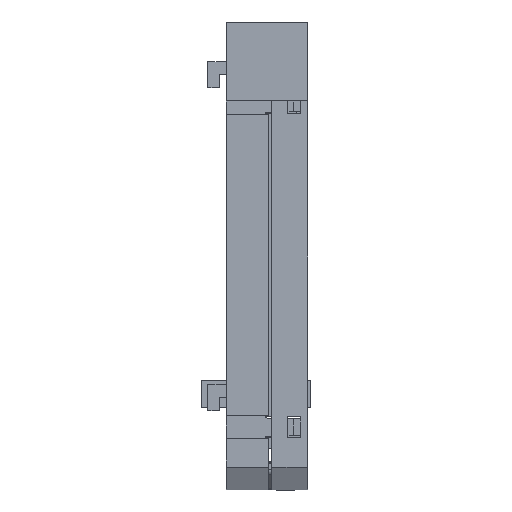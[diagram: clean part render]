
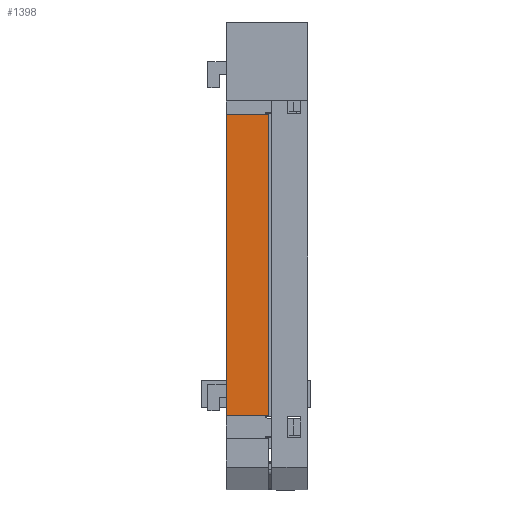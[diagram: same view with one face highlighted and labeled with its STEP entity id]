
A CAD part, front view. The second image highlights one B-rep face of the part: STEP entity #1398.
In plain terms, the highlighted planar face has unit normal (0, -1, 0).
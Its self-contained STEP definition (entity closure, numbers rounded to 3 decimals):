
#590 = EDGE_CURVE ( 'NONE', #17396, #34372, #19992, .T. ) ;
#1398 = ADVANCED_FACE ( 'NONE', ( #6600 ), #7859, .F. ) ;
#3129 = CARTESIAN_POINT ( 'NONE',  ( 6.5, 0., 0. ) ) ;
#3549 = ORIENTED_EDGE ( 'NONE', *, *, #8890, .F. ) ;
#6103 = CARTESIAN_POINT ( 'NONE',  ( 6.5, 0., -57.349 ) ) ;
#6600 = FACE_OUTER_BOUND ( 'NONE', #14095, .T. ) ;
#6853 = EDGE_CURVE ( 'NONE', #19922, #17396, #26809, .T. ) ;
#7859 = PLANE ( 'NONE',  #29561 ) ;
#8890 = EDGE_CURVE ( 'NONE', #19922, #31140, #25908, .T. ) ;
#9030 = EDGE_CURVE ( 'NONE', #31140, #34372, #14469, .T. ) ;
#9062 = CARTESIAN_POINT ( 'NONE',  ( 0., 0., -57.349 ) ) ;
#12620 = VECTOR ( 'NONE', #23668, 1000. ) ;
#14095 = EDGE_LOOP ( 'NONE', ( #26227, #19745, #19815, #3549 ) ) ;
#14123 = DIRECTION ( 'NONE',  ( 0., 0., -1. ) ) ;
#14469 = LINE ( 'NONE', #3129, #12620 ) ;
#16734 = DIRECTION ( 'NONE',  ( 0., 0., 1. ) ) ;
#17396 = VERTEX_POINT ( 'NONE', #35633 ) ;
#19118 = VECTOR ( 'NONE', #29585, 1000. ) ;
#19745 = ORIENTED_EDGE ( 'NONE', *, *, #590, .T. ) ;
#19815 = ORIENTED_EDGE ( 'NONE', *, *, #9030, .F. ) ;
#19922 = VERTEX_POINT ( 'NONE', #34665 ) ;
#19992 = LINE ( 'NONE', #9062, #19118 ) ;
#23668 = DIRECTION ( 'NONE',  ( 0., 0., -1. ) ) ;
#25016 = VECTOR ( 'NONE', #25754, 1000. ) ;
#25754 = DIRECTION ( 'NONE',  ( 1., 0., 0. ) ) ;
#25908 = LINE ( 'NONE', #31812, #25016 ) ;
#26227 = ORIENTED_EDGE ( 'NONE', *, *, #6853, .T. ) ;
#26809 = LINE ( 'NONE', #37581, #32813 ) ;
#29529 = CARTESIAN_POINT ( 'NONE',  ( 6.5, 0., -11.141 ) ) ;
#29561 = AXIS2_PLACEMENT_3D ( 'NONE', #31353, #34284, #16734 ) ;
#29585 = DIRECTION ( 'NONE',  ( 1., 0., 0. ) ) ;
#31140 = VERTEX_POINT ( 'NONE', #29529 ) ;
#31353 = CARTESIAN_POINT ( 'NONE',  ( 7., 0., 0. ) ) ;
#31812 = CARTESIAN_POINT ( 'NONE',  ( 0., 0., -11.141 ) ) ;
#32813 = VECTOR ( 'NONE', #14123, 1000. ) ;
#34284 = DIRECTION ( 'NONE',  ( 0., 1., 0. ) ) ;
#34372 = VERTEX_POINT ( 'NONE', #6103 ) ;
#34665 = CARTESIAN_POINT ( 'NONE',  ( 0., 0., -11.141 ) ) ;
#35633 = CARTESIAN_POINT ( 'NONE',  ( 0., 0., -57.349 ) ) ;
#37581 = CARTESIAN_POINT ( 'NONE',  ( 0., 0., 0. ) ) ;
